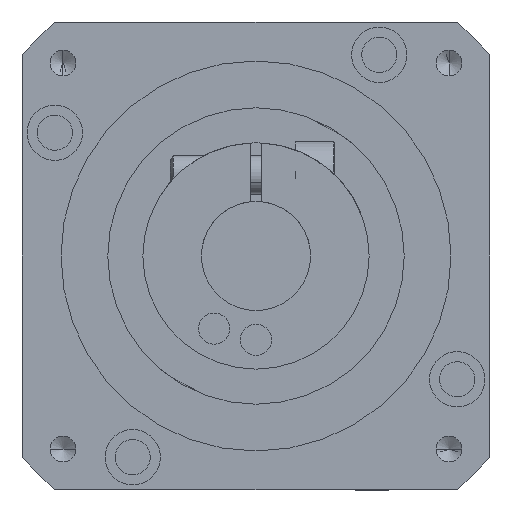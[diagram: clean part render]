
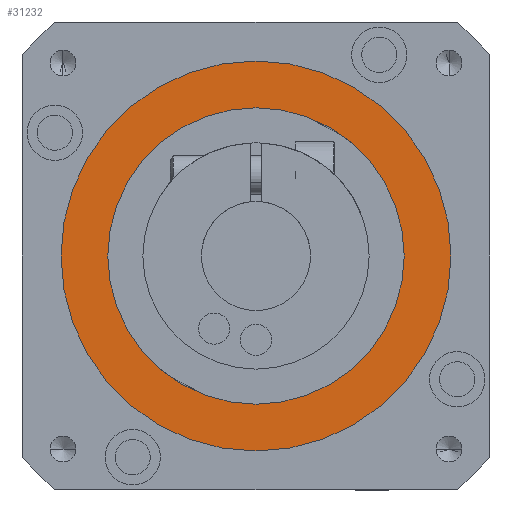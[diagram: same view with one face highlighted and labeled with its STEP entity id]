
A CAD part, front view. The second image highlights one B-rep face of the part: STEP entity #31232.
In plain terms, the highlighted planar face has unit normal (0, -1, 0).
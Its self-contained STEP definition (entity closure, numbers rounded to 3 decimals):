
#39 = CIRCLE ( 'NONE', #4643, 25. ) ;
#337 = CARTESIAN_POINT ( 'NONE',  ( 0., -36., 0. ) ) ;
#476 = VERTEX_POINT ( 'NONE', #25811 ) ;
#1091 = EDGE_CURVE ( 'NONE', #476, #15834, #39, .T. ) ;
#1439 = AXIS2_PLACEMENT_3D ( 'NONE', #337, #17608, #2773 ) ;
#2773 = DIRECTION ( 'NONE',  ( 0., 0., 1. ) ) ;
#2793 = FACE_BOUND ( 'NONE', #8112, .T. ) ;
#2979 = ORIENTED_EDGE ( 'NONE', *, *, #1091, .T. ) ;
#4643 = AXIS2_PLACEMENT_3D ( 'NONE', #12856, #12851, #12815 ) ;
#4709 = VERTEX_POINT ( 'NONE', #21513 ) ;
#6513 = CARTESIAN_POINT ( 'NONE',  ( 0., -36., 19. ) ) ;
#6842 = ORIENTED_EDGE ( 'NONE', *, *, #31105, .T. ) ;
#8112 = EDGE_LOOP ( 'NONE', ( #6842, #18822 ) ) ;
#9294 = DIRECTION ( 'NONE',  ( 0., -1., 0. ) ) ;
#11994 = DIRECTION ( 'NONE',  ( 0., 1., 0. ) ) ;
#12815 = DIRECTION ( 'NONE',  ( 0., 0., 1. ) ) ;
#12851 = DIRECTION ( 'NONE',  ( 0., -1., 0. ) ) ;
#12856 = CARTESIAN_POINT ( 'NONE',  ( 0., -36., 0. ) ) ;
#15357 = CARTESIAN_POINT ( 'NONE',  ( 0., -36., -25. ) ) ;
#15834 = VERTEX_POINT ( 'NONE', #15357 ) ;
#16289 = DIRECTION ( 'NONE',  ( 0., 0., 1. ) ) ;
#16296 = DIRECTION ( 'NONE',  ( 0., 1., 0. ) ) ;
#16343 = CARTESIAN_POINT ( 'NONE',  ( 0., -36., 0. ) ) ;
#17608 = DIRECTION ( 'NONE',  ( 0., 1., 0. ) ) ;
#17794 = AXIS2_PLACEMENT_3D ( 'NONE', #23973, #9294, #26296 ) ;
#18023 = AXIS2_PLACEMENT_3D ( 'NONE', #24244, #11994, #28903 ) ;
#18822 = ORIENTED_EDGE ( 'NONE', *, *, #22033, .T. ) ;
#19071 = CIRCLE ( 'NONE', #1439, 19. ) ;
#21513 = CARTESIAN_POINT ( 'NONE',  ( 0., -36., -19. ) ) ;
#22033 = EDGE_CURVE ( 'NONE', #4709, #28115, #22764, .T. ) ;
#22764 = CIRCLE ( 'NONE', #26327, 19. ) ;
#23925 = ORIENTED_EDGE ( 'NONE', *, *, #29598, .T. ) ;
#23973 = CARTESIAN_POINT ( 'NONE',  ( 0., -36., 0. ) ) ;
#24244 = CARTESIAN_POINT ( 'NONE',  ( 25., -36., 0. ) ) ;
#25811 = CARTESIAN_POINT ( 'NONE',  ( 0., -36., 25. ) ) ;
#26296 = DIRECTION ( 'NONE',  ( 0., 0., 1. ) ) ;
#26327 = AXIS2_PLACEMENT_3D ( 'NONE', #16343, #16296, #16289 ) ;
#26563 = PLANE ( 'NONE',  #18023 ) ;
#27953 = FACE_OUTER_BOUND ( 'NONE', #30312, .T. ) ;
#28054 = CIRCLE ( 'NONE', #17794, 25. ) ;
#28115 = VERTEX_POINT ( 'NONE', #6513 ) ;
#28903 = DIRECTION ( 'NONE',  ( 0., 0., 1. ) ) ;
#29598 = EDGE_CURVE ( 'NONE', #15834, #476, #28054, .T. ) ;
#30312 = EDGE_LOOP ( 'NONE', ( #2979, #23925 ) ) ;
#31105 = EDGE_CURVE ( 'NONE', #28115, #4709, #19071, .T. ) ;
#31232 = ADVANCED_FACE ( 'NONE', ( #27953, #2793 ), #26563, .F. ) ;
